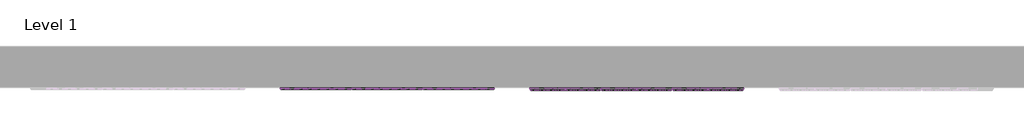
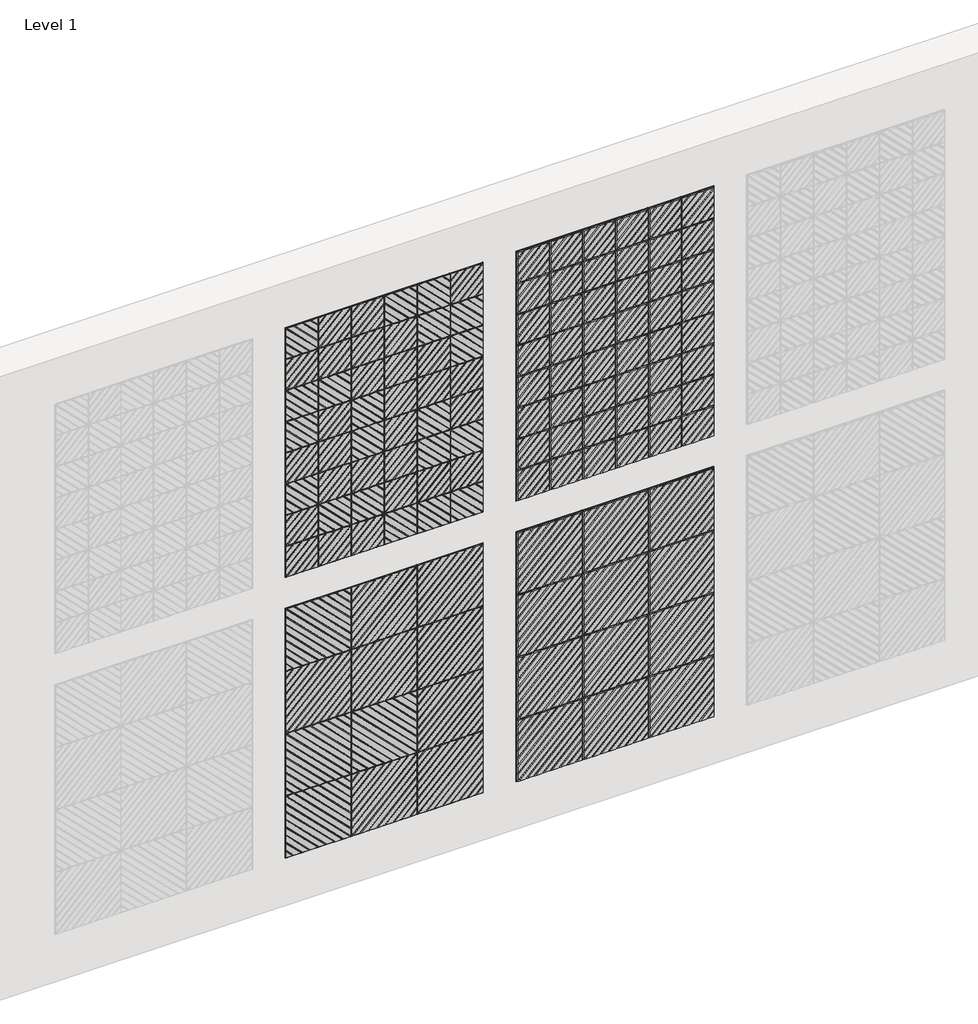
# One storey, part 2 of 3: 120 proxies.
"""IFC4 building model written with IfcOpenShell, lengths in millimetres."""

from ifc_helpers import new_model, si_unit, origin, place, context, project, spatial, transform, mapped, element, save
from components import maz_1_18_b906de22, maz_1_9_b5213464, maz_1_9_928b4c34, maz_2_18_823d9414, maz_2_9_f5754bbc, maz_2_9_c834c103

model = new_model("IFC4")

# Units and contexts
model_context = context("Model", 3, world=origin())
ifc_project = project(units=[si_unit("LENGTHUNIT", "METRE", prefix="MILLI")], contexts=[model_context])

# Site, building, storey
site = spatial("IfcSite", under=ifc_project)
building = spatial("IfcBuilding", under=site)
storey = spatial("IfcBuildingStorey", under=building, Name="Level 1", Elevation=0.0)

# Proxies
placement = place(None, origin())
maz_1_18_shape = maz_1_18_b906de22(model_context)
element("IfcBuildingElementProxy", 1, Name="Turf_Wall Tile_Maze : MAZ-1-18", ObjectType="Turf_Wall Tile_Maze : MAZ-1-18", at=placement, inside=storey, context=model_context, shape_type="MappedRepresentation", body=[
    mapped(maz_1_18_shape, transform((5601.5030998, 1379.3506904, 3367.9326506), x_axis=(1.0, 0.0, 0.0), y_axis=(0.0, 0.0, 1.0), z_axis=(0.0, -1.0, 0.0))),
])
element("IfcBuildingElementProxy", 2, Name="Turf_Wall Tile_Maze : MAZ-1-18", ObjectType="Turf_Wall Tile_Maze : MAZ-1-18", at=placement, inside=storey, context=model_context, shape_type="MappedRepresentation", body=[
    mapped(maz_1_18_shape, transform((5906.3030998, 1379.3506904, 3367.9326506), x_axis=(1.0, 0.0, 0.0), y_axis=(0.0, 0.0, 1.0), z_axis=(0.0, -1.0, 0.0))),
])
element("IfcBuildingElementProxy", 3, Name="Turf_Wall Tile_Maze : MAZ-1-18", ObjectType="Turf_Wall Tile_Maze : MAZ-1-18", at=placement, inside=storey, context=model_context, shape_type="MappedRepresentation", body=[
    mapped(maz_1_18_shape, transform((6820.7030998, 1379.3506904, 3367.9326506), x_axis=(1.0, 0.0, 0.0), y_axis=(0.0, 0.0, 1.0), z_axis=(0.0, -1.0, 0.0))),
])
element("IfcBuildingElementProxy", 4, Name="Turf_Wall Tile_Maze : MAZ-1-18", ObjectType="Turf_Wall Tile_Maze : MAZ-1-18", at=placement, inside=storey, context=model_context, shape_type="MappedRepresentation", body=[
    mapped(maz_1_18_shape, transform((7125.5030998, 1379.3506904, 3367.9326506), x_axis=(1.0, 0.0, 0.0), y_axis=(0.0, 0.0, 1.0), z_axis=(0.0, -1.0, 0.0))),
])
element("IfcBuildingElementProxy", 5, Name="Turf_Wall Tile_Maze : MAZ-1-18", ObjectType="Turf_Wall Tile_Maze : MAZ-1-18", at=placement, inside=storey, context=model_context, shape_type="MappedRepresentation", body=[
    mapped(maz_1_18_shape, transform((6211.1030998, 1379.3506904, 3367.9326506), x_axis=(1.0, 0.0, 0.0), y_axis=(0.0, 0.0, 1.0), z_axis=(0.0, -1.0, 0.0))),
])
element("IfcBuildingElementProxy", 6, Name="Turf_Wall Tile_Maze : MAZ-1-18", ObjectType="Turf_Wall Tile_Maze : MAZ-1-18", at=placement, inside=storey, context=model_context, shape_type="MappedRepresentation", body=[
    mapped(maz_1_18_shape, transform((6515.9030998, 1379.3506904, 3367.9326506), x_axis=(1.0, 0.0, 0.0), y_axis=(0.0, 0.0, 1.0), z_axis=(0.0, -1.0, 0.0))),
])
element("IfcBuildingElementProxy", 7, Name="Turf_Wall Tile_Maze : MAZ-1-18", ObjectType="Turf_Wall Tile_Maze : MAZ-1-18", at=placement, inside=storey, context=model_context, shape_type="MappedRepresentation", body=[
    mapped(maz_1_18_shape, transform((5601.5030998, 1379.3506904, 3672.7326506), x_axis=(1.0, 0.0, 0.0), y_axis=(0.0, 0.0, 1.0), z_axis=(0.0, -1.0, 0.0))),
])
element("IfcBuildingElementProxy", 8, Name="Turf_Wall Tile_Maze : MAZ-1-18", ObjectType="Turf_Wall Tile_Maze : MAZ-1-18", at=placement, inside=storey, context=model_context, shape_type="MappedRepresentation", body=[
    mapped(maz_1_18_shape, transform((5906.3030998, 1379.3506904, 3672.7326506), x_axis=(1.0, 0.0, 0.0), y_axis=(0.0, 0.0, 1.0), z_axis=(0.0, -1.0, 0.0))),
])
element("IfcBuildingElementProxy", 9, Name="Turf_Wall Tile_Maze : MAZ-1-18", ObjectType="Turf_Wall Tile_Maze : MAZ-1-18", at=placement, inside=storey, context=model_context, shape_type="MappedRepresentation", body=[
    mapped(maz_1_18_shape, transform((6820.7030998, 1379.3506904, 3672.7326506), x_axis=(1.0, 0.0, 0.0), y_axis=(0.0, 0.0, 1.0), z_axis=(0.0, -1.0, 0.0))),
])
element("IfcBuildingElementProxy", 10, Name="Turf_Wall Tile_Maze : MAZ-1-18", ObjectType="Turf_Wall Tile_Maze : MAZ-1-18", at=placement, inside=storey, context=model_context, shape_type="MappedRepresentation", body=[
    mapped(maz_1_18_shape, transform((7125.5030998, 1379.3506904, 3672.7326506), x_axis=(1.0, 0.0, 0.0), y_axis=(0.0, 0.0, 1.0), z_axis=(0.0, -1.0, 0.0))),
])
element("IfcBuildingElementProxy", 11, Name="Turf_Wall Tile_Maze : MAZ-1-18", ObjectType="Turf_Wall Tile_Maze : MAZ-1-18", at=placement, inside=storey, context=model_context, shape_type="MappedRepresentation", body=[
    mapped(maz_1_18_shape, transform((6211.1030998, 1379.3506904, 3672.7326506), x_axis=(1.0, 0.0, 0.0), y_axis=(0.0, 0.0, 1.0), z_axis=(0.0, -1.0, 0.0))),
])
element("IfcBuildingElementProxy", 12, Name="Turf_Wall Tile_Maze : MAZ-1-18", ObjectType="Turf_Wall Tile_Maze : MAZ-1-18", at=placement, inside=storey, context=model_context, shape_type="MappedRepresentation", body=[
    mapped(maz_1_18_shape, transform((6515.9030998, 1379.3506904, 3672.7326506), x_axis=(1.0, 0.0, 0.0), y_axis=(0.0, 0.0, 1.0), z_axis=(0.0, -1.0, 0.0))),
])
element("IfcBuildingElementProxy", 13, Name="Turf_Wall Tile_Maze : MAZ-1-18", ObjectType="Turf_Wall Tile_Maze : MAZ-1-18", at=placement, inside=storey, context=model_context, shape_type="MappedRepresentation", body=[
    mapped(maz_1_18_shape, transform((5601.5030998, 1379.3506904, 3977.5326506), x_axis=(1.0, 0.0, 0.0), y_axis=(0.0, 0.0, 1.0), z_axis=(0.0, -1.0, 0.0))),
])
element("IfcBuildingElementProxy", 14, Name="Turf_Wall Tile_Maze : MAZ-1-18", ObjectType="Turf_Wall Tile_Maze : MAZ-1-18", at=placement, inside=storey, context=model_context, shape_type="MappedRepresentation", body=[
    mapped(maz_1_18_shape, transform((5906.3030998, 1379.3506904, 3977.5326506), x_axis=(1.0, 0.0, 0.0), y_axis=(0.0, 0.0, 1.0), z_axis=(0.0, -1.0, 0.0))),
])
element("IfcBuildingElementProxy", 15, Name="Turf_Wall Tile_Maze : MAZ-1-18", ObjectType="Turf_Wall Tile_Maze : MAZ-1-18", at=placement, inside=storey, context=model_context, shape_type="MappedRepresentation", body=[
    mapped(maz_1_18_shape, transform((6820.7030998, 1379.3506904, 3977.5326506), x_axis=(1.0, 0.0, 0.0), y_axis=(0.0, 0.0, 1.0), z_axis=(0.0, -1.0, 0.0))),
])
element("IfcBuildingElementProxy", 16, Name="Turf_Wall Tile_Maze : MAZ-1-18", ObjectType="Turf_Wall Tile_Maze : MAZ-1-18", at=placement, inside=storey, context=model_context, shape_type="MappedRepresentation", body=[
    mapped(maz_1_18_shape, transform((7125.5030998, 1379.3506904, 3977.5326506), x_axis=(1.0, 0.0, 0.0), y_axis=(0.0, 0.0, 1.0), z_axis=(0.0, -1.0, 0.0))),
])
element("IfcBuildingElementProxy", 17, Name="Turf_Wall Tile_Maze : MAZ-1-18", ObjectType="Turf_Wall Tile_Maze : MAZ-1-18", at=placement, inside=storey, context=model_context, shape_type="MappedRepresentation", body=[
    mapped(maz_1_18_shape, transform((6211.1030998, 1379.3506904, 3977.5326506), x_axis=(1.0, 0.0, 0.0), y_axis=(0.0, 0.0, 1.0), z_axis=(0.0, -1.0, 0.0))),
])
element("IfcBuildingElementProxy", 18, Name="Turf_Wall Tile_Maze : MAZ-1-18", ObjectType="Turf_Wall Tile_Maze : MAZ-1-18", at=placement, inside=storey, context=model_context, shape_type="MappedRepresentation", body=[
    mapped(maz_1_18_shape, transform((6515.9030998, 1379.3506904, 3977.5326506), x_axis=(1.0, 0.0, 0.0), y_axis=(0.0, 0.0, 1.0), z_axis=(0.0, -1.0, 0.0))),
])
element("IfcBuildingElementProxy", 19, Name="Turf_Wall Tile_Maze : MAZ-1-18", ObjectType="Turf_Wall Tile_Maze : MAZ-1-18", at=placement, inside=storey, context=model_context, shape_type="MappedRepresentation", body=[
    mapped(maz_1_18_shape, transform((5601.5030998, 1379.3506904, 4282.3326506), x_axis=(1.0, 0.0, 0.0), y_axis=(0.0, 0.0, 1.0), z_axis=(0.0, -1.0, 0.0))),
])
element("IfcBuildingElementProxy", 20, Name="Turf_Wall Tile_Maze : MAZ-1-18", ObjectType="Turf_Wall Tile_Maze : MAZ-1-18", at=placement, inside=storey, context=model_context, shape_type="MappedRepresentation", body=[
    mapped(maz_1_18_shape, transform((5906.3030998, 1379.3506904, 4282.3326506), x_axis=(1.0, 0.0, 0.0), y_axis=(0.0, 0.0, 1.0), z_axis=(0.0, -1.0, 0.0))),
])
element("IfcBuildingElementProxy", 21, Name="Turf_Wall Tile_Maze : MAZ-1-18", ObjectType="Turf_Wall Tile_Maze : MAZ-1-18", at=placement, inside=storey, context=model_context, shape_type="MappedRepresentation", body=[
    mapped(maz_1_18_shape, transform((6820.7030998, 1379.3506904, 4282.3326506), x_axis=(1.0, 0.0, 0.0), y_axis=(0.0, 0.0, 1.0), z_axis=(0.0, -1.0, 0.0))),
])
element("IfcBuildingElementProxy", 22, Name="Turf_Wall Tile_Maze : MAZ-1-18", ObjectType="Turf_Wall Tile_Maze : MAZ-1-18", at=placement, inside=storey, context=model_context, shape_type="MappedRepresentation", body=[
    mapped(maz_1_18_shape, transform((7125.5030998, 1379.3506904, 4282.3326506), x_axis=(1.0, 0.0, 0.0), y_axis=(0.0, 0.0, 1.0), z_axis=(0.0, -1.0, 0.0))),
])
element("IfcBuildingElementProxy", 23, Name="Turf_Wall Tile_Maze : MAZ-1-18", ObjectType="Turf_Wall Tile_Maze : MAZ-1-18", at=placement, inside=storey, context=model_context, shape_type="MappedRepresentation", body=[
    mapped(maz_1_18_shape, transform((6211.1030998, 1379.3506904, 4282.3326506), x_axis=(1.0, 0.0, 0.0), y_axis=(0.0, 0.0, 1.0), z_axis=(0.0, -1.0, 0.0))),
])
element("IfcBuildingElementProxy", 24, Name="Turf_Wall Tile_Maze : MAZ-1-18", ObjectType="Turf_Wall Tile_Maze : MAZ-1-18", at=placement, inside=storey, context=model_context, shape_type="MappedRepresentation", body=[
    mapped(maz_1_18_shape, transform((6515.9030998, 1379.3506904, 4282.3326506), x_axis=(1.0, 0.0, 0.0), y_axis=(0.0, 0.0, 1.0), z_axis=(0.0, -1.0, 0.0))),
])
element("IfcBuildingElementProxy", 25, Name="Turf_Wall Tile_Maze : MAZ-1-18", ObjectType="Turf_Wall Tile_Maze : MAZ-1-18", at=placement, inside=storey, context=model_context, shape_type="MappedRepresentation", body=[
    mapped(maz_1_18_shape, transform((5601.5030998, 1379.3506904, 4587.1326506), x_axis=(1.0, 0.0, 0.0), y_axis=(0.0, 0.0, 1.0), z_axis=(0.0, -1.0, 0.0))),
])
element("IfcBuildingElementProxy", 26, Name="Turf_Wall Tile_Maze : MAZ-1-18", ObjectType="Turf_Wall Tile_Maze : MAZ-1-18", at=placement, inside=storey, context=model_context, shape_type="MappedRepresentation", body=[
    mapped(maz_1_18_shape, transform((5906.3030998, 1379.3506904, 4587.1326506), x_axis=(1.0, 0.0, 0.0), y_axis=(0.0, 0.0, 1.0), z_axis=(0.0, -1.0, 0.0))),
])
element("IfcBuildingElementProxy", 27, Name="Turf_Wall Tile_Maze : MAZ-1-18", ObjectType="Turf_Wall Tile_Maze : MAZ-1-18", at=placement, inside=storey, context=model_context, shape_type="MappedRepresentation", body=[
    mapped(maz_1_18_shape, transform((6820.7030998, 1379.3506904, 4587.1326506), x_axis=(1.0, 0.0, 0.0), y_axis=(0.0, 0.0, 1.0), z_axis=(0.0, -1.0, 0.0))),
])
element("IfcBuildingElementProxy", 28, Name="Turf_Wall Tile_Maze : MAZ-1-18", ObjectType="Turf_Wall Tile_Maze : MAZ-1-18", at=placement, inside=storey, context=model_context, shape_type="MappedRepresentation", body=[
    mapped(maz_1_18_shape, transform((7125.5030998, 1379.3506904, 4587.1326506), x_axis=(1.0, 0.0, 0.0), y_axis=(0.0, 0.0, 1.0), z_axis=(0.0, -1.0, 0.0))),
])
element("IfcBuildingElementProxy", 29, Name="Turf_Wall Tile_Maze : MAZ-1-18", ObjectType="Turf_Wall Tile_Maze : MAZ-1-18", at=placement, inside=storey, context=model_context, shape_type="MappedRepresentation", body=[
    mapped(maz_1_18_shape, transform((6211.1030998, 1379.3506904, 4587.1326506), x_axis=(1.0, 0.0, 0.0), y_axis=(0.0, 0.0, 1.0), z_axis=(0.0, -1.0, 0.0))),
])
element("IfcBuildingElementProxy", 30, Name="Turf_Wall Tile_Maze : MAZ-1-18", ObjectType="Turf_Wall Tile_Maze : MAZ-1-18", at=placement, inside=storey, context=model_context, shape_type="MappedRepresentation", body=[
    mapped(maz_1_18_shape, transform((6515.9030998, 1379.3506904, 4587.1326506), x_axis=(1.0, 0.0, 0.0), y_axis=(0.0, 0.0, 1.0), z_axis=(0.0, -1.0, 0.0))),
])
element("IfcBuildingElementProxy", 31, Name="Turf_Wall Tile_Maze : MAZ-1-18", ObjectType="Turf_Wall Tile_Maze : MAZ-1-18", at=placement, inside=storey, context=model_context, shape_type="MappedRepresentation", body=[
    mapped(maz_1_18_shape, transform((5601.5030998, 1379.3506904, 4891.9326506), x_axis=(1.0, 0.0, 0.0), y_axis=(0.0, 0.0, 1.0), z_axis=(0.0, -1.0, 0.0))),
])
element("IfcBuildingElementProxy", 32, Name="Turf_Wall Tile_Maze : MAZ-1-18", ObjectType="Turf_Wall Tile_Maze : MAZ-1-18", at=placement, inside=storey, context=model_context, shape_type="MappedRepresentation", body=[
    mapped(maz_1_18_shape, transform((5906.3030998, 1379.3506904, 4891.9326506), x_axis=(1.0, 0.0, 0.0), y_axis=(0.0, 0.0, 1.0), z_axis=(0.0, -1.0, 0.0))),
])
element("IfcBuildingElementProxy", 33, Name="Turf_Wall Tile_Maze : MAZ-1-18", ObjectType="Turf_Wall Tile_Maze : MAZ-1-18", at=placement, inside=storey, context=model_context, shape_type="MappedRepresentation", body=[
    mapped(maz_1_18_shape, transform((6820.7030998, 1379.3506904, 4891.9326506), x_axis=(1.0, 0.0, 0.0), y_axis=(0.0, 0.0, 1.0), z_axis=(0.0, -1.0, 0.0))),
])
element("IfcBuildingElementProxy", 34, Name="Turf_Wall Tile_Maze : MAZ-1-18", ObjectType="Turf_Wall Tile_Maze : MAZ-1-18", at=placement, inside=storey, context=model_context, shape_type="MappedRepresentation", body=[
    mapped(maz_1_18_shape, transform((7125.5030998, 1379.3506904, 4891.9326506), x_axis=(1.0, 0.0, 0.0), y_axis=(0.0, 0.0, 1.0), z_axis=(0.0, -1.0, 0.0))),
])
element("IfcBuildingElementProxy", 35, Name="Turf_Wall Tile_Maze : MAZ-1-18", ObjectType="Turf_Wall Tile_Maze : MAZ-1-18", at=placement, inside=storey, context=model_context, shape_type="MappedRepresentation", body=[
    mapped(maz_1_18_shape, transform((6211.1030998, 1379.3506904, 4891.9326506), x_axis=(1.0, 0.0, 0.0), y_axis=(0.0, 0.0, 1.0), z_axis=(0.0, -1.0, 0.0))),
])
element("IfcBuildingElementProxy", 36, Name="Turf_Wall Tile_Maze : MAZ-1-18", ObjectType="Turf_Wall Tile_Maze : MAZ-1-18", at=placement, inside=storey, context=model_context, shape_type="MappedRepresentation", body=[
    mapped(maz_1_18_shape, transform((6515.9030998, 1379.3506904, 4891.9326506), x_axis=(1.0, 0.0, 0.0), y_axis=(0.0, 0.0, 1.0), z_axis=(0.0, -1.0, 0.0))),
])
element("IfcBuildingElementProxy", 37, Name="Turf_Wall Tile_Maze : MAZ-1-18", ObjectType="Turf_Wall Tile_Maze : MAZ-1-18", at=placement, inside=storey, context=model_context, shape_type="MappedRepresentation", body=[
    mapped(maz_1_18_shape, transform((5601.5030998, 1379.3506904, 5196.7326506), x_axis=(1.0, 0.0, 0.0), y_axis=(0.0, 0.0, 1.0), z_axis=(0.0, -1.0, 0.0))),
])
element("IfcBuildingElementProxy", 38, Name="Turf_Wall Tile_Maze : MAZ-1-18", ObjectType="Turf_Wall Tile_Maze : MAZ-1-18", at=placement, inside=storey, context=model_context, shape_type="MappedRepresentation", body=[
    mapped(maz_1_18_shape, transform((5906.3030998, 1379.3506904, 5196.7326506), x_axis=(1.0, 0.0, 0.0), y_axis=(0.0, 0.0, 1.0), z_axis=(0.0, -1.0, 0.0))),
])
element("IfcBuildingElementProxy", 39, Name="Turf_Wall Tile_Maze : MAZ-1-18", ObjectType="Turf_Wall Tile_Maze : MAZ-1-18", at=placement, inside=storey, context=model_context, shape_type="MappedRepresentation", body=[
    mapped(maz_1_18_shape, transform((6820.7030998, 1379.3506904, 5196.7326506), x_axis=(1.0, 0.0, 0.0), y_axis=(0.0, 0.0, 1.0), z_axis=(0.0, -1.0, 0.0))),
])
element("IfcBuildingElementProxy", 40, Name="Turf_Wall Tile_Maze : MAZ-1-18", ObjectType="Turf_Wall Tile_Maze : MAZ-1-18", at=placement, inside=storey, context=model_context, shape_type="MappedRepresentation", body=[
    mapped(maz_1_18_shape, transform((7125.5030998, 1379.3506904, 5196.7326506), x_axis=(1.0, 0.0, 0.0), y_axis=(0.0, 0.0, 1.0), z_axis=(0.0, -1.0, 0.0))),
])
element("IfcBuildingElementProxy", 41, Name="Turf_Wall Tile_Maze : MAZ-1-18", ObjectType="Turf_Wall Tile_Maze : MAZ-1-18", at=placement, inside=storey, context=model_context, shape_type="MappedRepresentation", body=[
    mapped(maz_1_18_shape, transform((6211.1030998, 1379.3506904, 5196.7326506), x_axis=(1.0, 0.0, 0.0), y_axis=(0.0, 0.0, 1.0), z_axis=(0.0, -1.0, 0.0))),
])
element("IfcBuildingElementProxy", 42, Name="Turf_Wall Tile_Maze : MAZ-1-18", ObjectType="Turf_Wall Tile_Maze : MAZ-1-18", at=placement, inside=storey, context=model_context, shape_type="MappedRepresentation", body=[
    mapped(maz_1_18_shape, transform((6515.9030998, 1379.3506904, 5196.7326506), x_axis=(1.0, 0.0, 0.0), y_axis=(0.0, 0.0, 1.0), z_axis=(0.0, -1.0, 0.0))),
])
element("IfcBuildingElementProxy", 43, Name="Turf_Wall Tile_Maze : MAZ-1-18", ObjectType="Turf_Wall Tile_Maze : MAZ-1-18", at=placement, inside=storey, context=model_context, shape_type="MappedRepresentation", body=[
    mapped(maz_1_18_shape, transform((5601.5030998, 1379.3506904, 5501.5326506), x_axis=(1.0, 0.0, 0.0), y_axis=(0.0, 0.0, 1.0), z_axis=(0.0, -1.0, 0.0))),
])
element("IfcBuildingElementProxy", 44, Name="Turf_Wall Tile_Maze : MAZ-1-18", ObjectType="Turf_Wall Tile_Maze : MAZ-1-18", at=placement, inside=storey, context=model_context, shape_type="MappedRepresentation", body=[
    mapped(maz_1_18_shape, transform((5906.3030998, 1379.3506904, 5501.5326506), x_axis=(1.0, 0.0, 0.0), y_axis=(0.0, 0.0, 1.0), z_axis=(0.0, -1.0, 0.0))),
])
element("IfcBuildingElementProxy", 45, Name="Turf_Wall Tile_Maze : MAZ-1-18", ObjectType="Turf_Wall Tile_Maze : MAZ-1-18", at=placement, inside=storey, context=model_context, shape_type="MappedRepresentation", body=[
    mapped(maz_1_18_shape, transform((6820.7030998, 1379.3506904, 5501.5326506), x_axis=(1.0, 0.0, 0.0), y_axis=(0.0, 0.0, 1.0), z_axis=(0.0, -1.0, 0.0))),
])
element("IfcBuildingElementProxy", 46, Name="Turf_Wall Tile_Maze : MAZ-1-18", ObjectType="Turf_Wall Tile_Maze : MAZ-1-18", at=placement, inside=storey, context=model_context, shape_type="MappedRepresentation", body=[
    mapped(maz_1_18_shape, transform((7125.5030998, 1379.3506904, 5501.5326506), x_axis=(1.0, 0.0, 0.0), y_axis=(0.0, 0.0, 1.0), z_axis=(0.0, -1.0, 0.0))),
])
element("IfcBuildingElementProxy", 47, Name="Turf_Wall Tile_Maze : MAZ-1-18", ObjectType="Turf_Wall Tile_Maze : MAZ-1-18", at=placement, inside=storey, context=model_context, shape_type="MappedRepresentation", body=[
    mapped(maz_1_18_shape, transform((6211.1030998, 1379.3506904, 5501.5326506), x_axis=(1.0, 0.0, 0.0), y_axis=(0.0, 0.0, 1.0), z_axis=(0.0, -1.0, 0.0))),
])
element("IfcBuildingElementProxy", 48, Name="Turf_Wall Tile_Maze : MAZ-1-18", ObjectType="Turf_Wall Tile_Maze : MAZ-1-18", at=placement, inside=storey, context=model_context, shape_type="MappedRepresentation", body=[
    mapped(maz_1_18_shape, transform((6515.9030998, 1379.3506904, 5501.5326506), x_axis=(1.0, 0.0, 0.0), y_axis=(0.0, 0.0, 1.0), z_axis=(0.0, -1.0, 0.0))),
])
maz_1_9_shape = maz_1_9_b5213464(model_context)
element("IfcBuildingElementProxy", 49, Name="Turf_Wall Tile_Maze : MAZ-1-9", ObjectType="Turf_Wall Tile_Maze : MAZ-1-9", at=placement, inside=storey, context=model_context, shape_type="MappedRepresentation", body=[
    mapped(maz_1_9_shape, transform((3772.7030998, 1379.3506904, 5501.5326506), x_axis=(1.0, 0.0, 0.0), y_axis=(0.0, 0.0, 1.0), z_axis=(0.0, -1.0, 0.0))),
])
element("IfcBuildingElementProxy", 50, Name="Turf_Wall Tile_Maze : MAZ-1-9", ObjectType="Turf_Wall Tile_Maze : MAZ-1-9", at=placement, inside=storey, context=model_context, shape_type="MappedRepresentation", body=[
    mapped(maz_1_9_shape, transform((4077.5030998, 1379.3506904, 5501.5326506), x_axis=(-1.0, 0.0, 0.0), y_axis=(0.0, 0.0, -1.0), z_axis=(0.0, -1.0, 0.0))),
])
element("IfcBuildingElementProxy", 51, Name="Turf_Wall Tile_Maze : MAZ-1-9", ObjectType="Turf_Wall Tile_Maze : MAZ-1-9", at=placement, inside=storey, context=model_context, shape_type="MappedRepresentation", body=[
    mapped(maz_1_9_shape, transform((4991.9030998, 1379.3506904, 5501.5326506), x_axis=(1.0, 0.0, 0.0), y_axis=(0.0, 0.0, 1.0), z_axis=(0.0, -1.0, 0.0))),
])
element("IfcBuildingElementProxy", 52, Name="Turf_Wall Tile_Maze : MAZ-1-9", ObjectType="Turf_Wall Tile_Maze : MAZ-1-9", at=placement, inside=storey, context=model_context, shape_type="MappedRepresentation", body=[
    mapped(maz_1_9_shape, transform((3467.9030998, 1379.3506904, 5501.5326506), x_axis=(0.0, 0.0, 1.0), y_axis=(-1.0, 0.0, 0.0), z_axis=(0.0, -1.0, 0.0))),
])
element("IfcBuildingElementProxy", 53, Name="Turf_Wall Tile_Maze : MAZ-1-9", ObjectType="Turf_Wall Tile_Maze : MAZ-1-9", at=placement, inside=storey, context=model_context, shape_type="MappedRepresentation", body=[
    mapped(maz_1_9_shape, transform((4382.3030998, 1379.3506904, 5501.5326506), x_axis=(0.0, 0.0, 1.0), y_axis=(-1.0, 0.0, 0.0), z_axis=(0.0, -1.0, 0.0))),
])
element("IfcBuildingElementProxy", 54, Name="Turf_Wall Tile_Maze : MAZ-1-9", ObjectType="Turf_Wall Tile_Maze : MAZ-1-9", at=placement, inside=storey, context=model_context, shape_type="MappedRepresentation", body=[
    mapped(maz_1_9_shape, transform((4687.1030998, 1379.3506904, 5501.5326506), x_axis=(0.0, 0.0, 1.0), y_axis=(-1.0, 0.0, 0.0), z_axis=(0.0, -1.0, 0.0))),
])
element("IfcBuildingElementProxy", 55, Name="Turf_Wall Tile_Maze : MAZ-1-9", ObjectType="Turf_Wall Tile_Maze : MAZ-1-9", at=placement, inside=storey, context=model_context, shape_type="MappedRepresentation", body=[
    mapped(maz_1_9_shape, transform((3772.7030998, 1379.3506904, 4891.9326506), x_axis=(0.0, 0.0, 1.0), y_axis=(-1.0, 0.0, 0.0), z_axis=(0.0, -1.0, 0.0))),
])
element("IfcBuildingElementProxy", 56, Name="Turf_Wall Tile_Maze : MAZ-1-9", ObjectType="Turf_Wall Tile_Maze : MAZ-1-9", at=placement, inside=storey, context=model_context, shape_type="MappedRepresentation", body=[
    mapped(maz_1_9_shape, transform((4077.5030998, 1379.3506904, 4891.9326506), x_axis=(-1.0, 0.0, 0.0), y_axis=(0.0, 0.0, -1.0), z_axis=(0.0, -1.0, 0.0))),
])
element("IfcBuildingElementProxy", 57, Name="Turf_Wall Tile_Maze : MAZ-1-9", ObjectType="Turf_Wall Tile_Maze : MAZ-1-9", at=placement, inside=storey, context=model_context, shape_type="MappedRepresentation", body=[
    mapped(maz_1_9_shape, transform((4991.9030998, 1379.3506904, 4891.9326506), x_axis=(0.0, 0.0, 1.0), y_axis=(-1.0, 0.0, 0.0), z_axis=(0.0, -1.0, 0.0))),
])
element("IfcBuildingElementProxy", 58, Name="Turf_Wall Tile_Maze : MAZ-1-9", ObjectType="Turf_Wall Tile_Maze : MAZ-1-9", at=placement, inside=storey, context=model_context, shape_type="MappedRepresentation", body=[
    mapped(maz_1_9_shape, transform((3467.9030998, 1379.3506904, 4891.9326506), x_axis=(0.0, 0.0, 1.0), y_axis=(-1.0, 0.0, 0.0), z_axis=(0.0, -1.0, 0.0))),
])
element("IfcBuildingElementProxy", 59, Name="Turf_Wall Tile_Maze : MAZ-1-9", ObjectType="Turf_Wall Tile_Maze : MAZ-1-9", at=placement, inside=storey, context=model_context, shape_type="MappedRepresentation", body=[
    mapped(maz_1_9_shape, transform((4382.3030998, 1379.3506904, 4891.9326506), x_axis=(-1.0, 0.0, 0.0), y_axis=(0.0, 0.0, -1.0), z_axis=(0.0, -1.0, 0.0))),
])
element("IfcBuildingElementProxy", 60, Name="Turf_Wall Tile_Maze : MAZ-1-9", ObjectType="Turf_Wall Tile_Maze : MAZ-1-9", at=placement, inside=storey, context=model_context, shape_type="MappedRepresentation", body=[
    mapped(maz_1_9_shape, transform((4687.1030998, 1379.3506904, 4891.9326506), x_axis=(-1.0, 0.0, 0.0), y_axis=(0.0, 0.0, -1.0), z_axis=(0.0, -1.0, 0.0))),
])
element("IfcBuildingElementProxy", 61, Name="Turf_Wall Tile_Maze : MAZ-1-9", ObjectType="Turf_Wall Tile_Maze : MAZ-1-9", at=placement, inside=storey, context=model_context, shape_type="MappedRepresentation", body=[
    mapped(maz_1_9_shape, transform((3772.7030998, 1379.3506904, 4282.3326506), x_axis=(-1.0, 0.0, 0.0), y_axis=(0.0, 0.0, -1.0), z_axis=(0.0, -1.0, 0.0))),
])
element("IfcBuildingElementProxy", 62, Name="Turf_Wall Tile_Maze : MAZ-1-9", ObjectType="Turf_Wall Tile_Maze : MAZ-1-9", at=placement, inside=storey, context=model_context, shape_type="MappedRepresentation", body=[
    mapped(maz_1_9_shape, transform((4077.5030998, 1379.3506904, 4282.3326506), x_axis=(0.0, 0.0, -1.0), y_axis=(1.0, 0.0, 0.0), z_axis=(0.0, -1.0, 0.0))),
])
element("IfcBuildingElementProxy", 63, Name="Turf_Wall Tile_Maze : MAZ-1-9", ObjectType="Turf_Wall Tile_Maze : MAZ-1-9", at=placement, inside=storey, context=model_context, shape_type="MappedRepresentation", body=[
    mapped(maz_1_9_shape, transform((4991.9030998, 1379.3506904, 4282.3326506), x_axis=(1.0, 0.0, 0.0), y_axis=(0.0, 0.0, 1.0), z_axis=(0.0, -1.0, 0.0))),
])
element("IfcBuildingElementProxy", 64, Name="Turf_Wall Tile_Maze : MAZ-1-9", ObjectType="Turf_Wall Tile_Maze : MAZ-1-9", at=placement, inside=storey, context=model_context, shape_type="MappedRepresentation", body=[
    mapped(maz_1_9_shape, transform((3467.9030998, 1379.3506904, 4282.3326506), x_axis=(-1.0, 0.0, 0.0), y_axis=(0.0, 0.0, -1.0), z_axis=(0.0, -1.0, 0.0))),
])
element("IfcBuildingElementProxy", 65, Name="Turf_Wall Tile_Maze : MAZ-1-9", ObjectType="Turf_Wall Tile_Maze : MAZ-1-9", at=placement, inside=storey, context=model_context, shape_type="MappedRepresentation", body=[
    mapped(maz_1_9_shape, transform((4382.3030998, 1379.3506904, 4282.3326506), x_axis=(-1.0, 0.0, 0.0), y_axis=(0.0, 0.0, -1.0), z_axis=(0.0, -1.0, 0.0))),
])
element("IfcBuildingElementProxy", 66, Name="Turf_Wall Tile_Maze : MAZ-1-9", ObjectType="Turf_Wall Tile_Maze : MAZ-1-9", at=placement, inside=storey, context=model_context, shape_type="MappedRepresentation", body=[
    mapped(maz_1_9_shape, transform((4687.1030998, 1379.3506904, 4282.3326506), x_axis=(0.0, 0.0, -1.0), y_axis=(1.0, 0.0, 0.0), z_axis=(0.0, -1.0, 0.0))),
])
maz_1_9_2_shape = maz_1_9_928b4c34(model_context)
element("IfcBuildingElementProxy", 67, Name="Turf_Wall Tile_Maze : MAZ-1-9", ObjectType="Turf_Wall Tile_Maze : MAZ-1-9", at=placement, inside=storey, context=model_context, shape_type="MappedRepresentation", body=[
    mapped(maz_1_9_2_shape, transform((3772.7030998, 1379.3506904, 5196.7326506), x_axis=(0.0, 0.0, 1.0), y_axis=(-1.0, 0.0, 0.0), z_axis=(0.0, -1.0, 0.0))),
])
element("IfcBuildingElementProxy", 68, Name="Turf_Wall Tile_Maze : MAZ-1-9", ObjectType="Turf_Wall Tile_Maze : MAZ-1-9", at=placement, inside=storey, context=model_context, shape_type="MappedRepresentation", body=[
    mapped(maz_1_9_2_shape, transform((4077.5030998, 1379.3506904, 5196.7326506), x_axis=(0.0, 0.0, -1.0), y_axis=(1.0, 0.0, 0.0), z_axis=(0.0, -1.0, 0.0))),
])
element("IfcBuildingElementProxy", 69, Name="Turf_Wall Tile_Maze : MAZ-1-9", ObjectType="Turf_Wall Tile_Maze : MAZ-1-9", at=placement, inside=storey, context=model_context, shape_type="MappedRepresentation", body=[
    mapped(maz_1_9_2_shape, transform((4991.9030998, 1379.3506904, 5196.7326506), x_axis=(1.0, 0.0, 0.0), y_axis=(0.0, 0.0, 1.0), z_axis=(0.0, -1.0, 0.0))),
])
element("IfcBuildingElementProxy", 70, Name="Turf_Wall Tile_Maze : MAZ-1-9", ObjectType="Turf_Wall Tile_Maze : MAZ-1-9", at=placement, inside=storey, context=model_context, shape_type="MappedRepresentation", body=[
    mapped(maz_1_9_2_shape, transform((3467.9030998, 1379.3506904, 5196.7326506), x_axis=(0.0, 0.0, -1.0), y_axis=(1.0, 0.0, 0.0), z_axis=(0.0, -1.0, 0.0))),
])
element("IfcBuildingElementProxy", 71, Name="Turf_Wall Tile_Maze : MAZ-1-9", ObjectType="Turf_Wall Tile_Maze : MAZ-1-9", at=placement, inside=storey, context=model_context, shape_type="MappedRepresentation", body=[
    mapped(maz_1_9_2_shape, transform((4382.3030998, 1379.3506904, 5196.7326506), x_axis=(0.0, 0.0, 1.0), y_axis=(-1.0, 0.0, 0.0), z_axis=(0.0, -1.0, 0.0))),
])
element("IfcBuildingElementProxy", 72, Name="Turf_Wall Tile_Maze : MAZ-1-9", ObjectType="Turf_Wall Tile_Maze : MAZ-1-9", at=placement, inside=storey, context=model_context, shape_type="MappedRepresentation", body=[
    mapped(maz_1_9_2_shape, transform((4687.1030998, 1379.3506904, 5196.7326506), x_axis=(1.0, 0.0, 0.0), y_axis=(0.0, 0.0, 1.0), z_axis=(0.0, -1.0, 0.0))),
])
element("IfcBuildingElementProxy", 73, Name="Turf_Wall Tile_Maze : MAZ-1-9", ObjectType="Turf_Wall Tile_Maze : MAZ-1-9", at=placement, inside=storey, context=model_context, shape_type="MappedRepresentation", body=[
    mapped(maz_1_9_2_shape, transform((3772.7030998, 1379.3506904, 4587.1326506), x_axis=(0.0, 0.0, 1.0), y_axis=(-1.0, 0.0, 0.0), z_axis=(0.0, -1.0, 0.0))),
])
element("IfcBuildingElementProxy", 74, Name="Turf_Wall Tile_Maze : MAZ-1-9", ObjectType="Turf_Wall Tile_Maze : MAZ-1-9", at=placement, inside=storey, context=model_context, shape_type="MappedRepresentation", body=[
    mapped(maz_1_9_2_shape, transform((4077.5030998, 1379.3506904, 4587.1326506), x_axis=(1.0, 0.0, 0.0), y_axis=(0.0, 0.0, 1.0), z_axis=(0.0, -1.0, 0.0))),
])
element("IfcBuildingElementProxy", 75, Name="Turf_Wall Tile_Maze : MAZ-1-9", ObjectType="Turf_Wall Tile_Maze : MAZ-1-9", at=placement, inside=storey, context=model_context, shape_type="MappedRepresentation", body=[
    mapped(maz_1_9_2_shape, transform((4991.9030998, 1379.3506904, 4587.1326506), x_axis=(0.0, 0.0, 1.0), y_axis=(-1.0, 0.0, 0.0), z_axis=(0.0, -1.0, 0.0))),
])
element("IfcBuildingElementProxy", 76, Name="Turf_Wall Tile_Maze : MAZ-1-9", ObjectType="Turf_Wall Tile_Maze : MAZ-1-9", at=placement, inside=storey, context=model_context, shape_type="MappedRepresentation", body=[
    mapped(maz_1_9_2_shape, transform((3467.9030998, 1379.3506904, 4587.1326506), x_axis=(1.0, 0.0, 0.0), y_axis=(0.0, 0.0, 1.0), z_axis=(0.0, -1.0, 0.0))),
])
element("IfcBuildingElementProxy", 77, Name="Turf_Wall Tile_Maze : MAZ-1-9", ObjectType="Turf_Wall Tile_Maze : MAZ-1-9", at=placement, inside=storey, context=model_context, shape_type="MappedRepresentation", body=[
    mapped(maz_1_9_2_shape, transform((4382.3030998, 1379.3506904, 4587.1326506), x_axis=(0.0, 0.0, 1.0), y_axis=(-1.0, 0.0, 0.0), z_axis=(0.0, -1.0, 0.0))),
])
element("IfcBuildingElementProxy", 78, Name="Turf_Wall Tile_Maze : MAZ-1-9", ObjectType="Turf_Wall Tile_Maze : MAZ-1-9", at=placement, inside=storey, context=model_context, shape_type="MappedRepresentation", body=[
    mapped(maz_1_9_2_shape, transform((4687.1030998, 1379.3506904, 4587.1326506), x_axis=(0.0, 0.0, 1.0), y_axis=(-1.0, 0.0, 0.0), z_axis=(0.0, -1.0, 0.0))),
])
element("IfcBuildingElementProxy", 79, Name="Turf_Wall Tile_Maze : MAZ-1-9", ObjectType="Turf_Wall Tile_Maze : MAZ-1-9", at=placement, inside=storey, context=model_context, shape_type="MappedRepresentation", body=[
    mapped(maz_1_9_2_shape, transform((3772.7030998, 1379.3506904, 3977.5326506), x_axis=(0.0, 0.0, 1.0), y_axis=(-1.0, 0.0, 0.0), z_axis=(0.0, -1.0, 0.0))),
])
element("IfcBuildingElementProxy", 80, Name="Turf_Wall Tile_Maze : MAZ-1-9", ObjectType="Turf_Wall Tile_Maze : MAZ-1-9", at=placement, inside=storey, context=model_context, shape_type="MappedRepresentation", body=[
    mapped(maz_1_9_2_shape, transform((4077.5030998, 1379.3506904, 3977.5326506), x_axis=(0.0, 0.0, 1.0), y_axis=(-1.0, 0.0, 0.0), z_axis=(0.0, -1.0, 0.0))),
])
element("IfcBuildingElementProxy", 81, Name="Turf_Wall Tile_Maze : MAZ-1-9", ObjectType="Turf_Wall Tile_Maze : MAZ-1-9", at=placement, inside=storey, context=model_context, shape_type="MappedRepresentation", body=[
    mapped(maz_1_9_2_shape, transform((4991.9030998, 1379.3506904, 3977.5326506), x_axis=(-1.0, 0.0, 0.0), y_axis=(0.0, 0.0, -1.0), z_axis=(0.0, -1.0, 0.0))),
])
element("IfcBuildingElementProxy", 82, Name="Turf_Wall Tile_Maze : MAZ-1-9", ObjectType="Turf_Wall Tile_Maze : MAZ-1-9", at=placement, inside=storey, context=model_context, shape_type="MappedRepresentation", body=[
    mapped(maz_1_9_2_shape, transform((3467.9030998, 1379.3506904, 3977.5326506), x_axis=(1.0, 0.0, 0.0), y_axis=(0.0, 0.0, 1.0), z_axis=(0.0, -1.0, 0.0))),
])
element("IfcBuildingElementProxy", 83, Name="Turf_Wall Tile_Maze : MAZ-1-9", ObjectType="Turf_Wall Tile_Maze : MAZ-1-9", at=placement, inside=storey, context=model_context, shape_type="MappedRepresentation", body=[
    mapped(maz_1_9_2_shape, transform((4382.3030998, 1379.3506904, 3977.5326506), x_axis=(0.0, 0.0, 1.0), y_axis=(-1.0, 0.0, 0.0), z_axis=(0.0, -1.0, 0.0))),
])
element("IfcBuildingElementProxy", 84, Name="Turf_Wall Tile_Maze : MAZ-1-9", ObjectType="Turf_Wall Tile_Maze : MAZ-1-9", at=placement, inside=storey, context=model_context, shape_type="MappedRepresentation", body=[
    mapped(maz_1_9_2_shape, transform((4687.1030998, 1379.3506904, 3977.5326506), x_axis=(-1.0, 0.0, 0.0), y_axis=(0.0, 0.0, -1.0), z_axis=(0.0, -1.0, 0.0))),
])
element("IfcBuildingElementProxy", 85, Name="Turf_Wall Tile_Maze : MAZ-1-9", ObjectType="Turf_Wall Tile_Maze : MAZ-1-9", at=placement, inside=storey, context=model_context, shape_type="MappedRepresentation", body=[
    mapped(maz_1_9_2_shape, transform((3772.7030998, 1379.3506904, 3672.7326506), x_axis=(-1.0, 0.0, 0.0), y_axis=(0.0, 0.0, -1.0), z_axis=(0.0, -1.0, 0.0))),
])
element("IfcBuildingElementProxy", 86, Name="Turf_Wall Tile_Maze : MAZ-1-9", ObjectType="Turf_Wall Tile_Maze : MAZ-1-9", at=placement, inside=storey, context=model_context, shape_type="MappedRepresentation", body=[
    mapped(maz_1_9_2_shape, transform((4077.5030998, 1379.3506904, 3672.7326506), x_axis=(-1.0, 0.0, 0.0), y_axis=(0.0, 0.0, -1.0), z_axis=(0.0, -1.0, 0.0))),
])
element("IfcBuildingElementProxy", 87, Name="Turf_Wall Tile_Maze : MAZ-1-9", ObjectType="Turf_Wall Tile_Maze : MAZ-1-9", at=placement, inside=storey, context=model_context, shape_type="MappedRepresentation", body=[
    mapped(maz_1_9_2_shape, transform((4991.9030998, 1379.3506904, 3672.7326506), x_axis=(0.0, 0.0, -1.0), y_axis=(1.0, 0.0, 0.0), z_axis=(0.0, -1.0, 0.0))),
])
element("IfcBuildingElementProxy", 88, Name="Turf_Wall Tile_Maze : MAZ-1-9", ObjectType="Turf_Wall Tile_Maze : MAZ-1-9", at=placement, inside=storey, context=model_context, shape_type="MappedRepresentation", body=[
    mapped(maz_1_9_2_shape, transform((3467.9030998, 1379.3506904, 3672.7326506), x_axis=(0.0, 0.0, 1.0), y_axis=(-1.0, 0.0, 0.0), z_axis=(0.0, -1.0, 0.0))),
])
element("IfcBuildingElementProxy", 89, Name="Turf_Wall Tile_Maze : MAZ-1-9", ObjectType="Turf_Wall Tile_Maze : MAZ-1-9", at=placement, inside=storey, context=model_context, shape_type="MappedRepresentation", body=[
    mapped(maz_1_9_2_shape, transform((4382.3030998, 1379.3506904, 3672.7326506), x_axis=(0.0, 0.0, -1.0), y_axis=(1.0, 0.0, 0.0), z_axis=(0.0, -1.0, 0.0))),
])
element("IfcBuildingElementProxy", 90, Name="Turf_Wall Tile_Maze : MAZ-1-9", ObjectType="Turf_Wall Tile_Maze : MAZ-1-9", at=placement, inside=storey, context=model_context, shape_type="MappedRepresentation", body=[
    mapped(maz_1_9_2_shape, transform((4687.1030998, 1379.3506904, 3672.7326506), x_axis=(0.0, 0.0, -1.0), y_axis=(1.0, 0.0, 0.0), z_axis=(0.0, -1.0, 0.0))),
])
element("IfcBuildingElementProxy", 91, Name="Turf_Wall Tile_Maze : MAZ-1-9", ObjectType="Turf_Wall Tile_Maze : MAZ-1-9", at=placement, inside=storey, context=model_context, shape_type="MappedRepresentation", body=[
    mapped(maz_1_9_2_shape, transform((3772.7030998, 1379.3506904, 3367.9326506), x_axis=(0.0, 0.0, -1.0), y_axis=(1.0, 0.0, 0.0), z_axis=(0.0, -1.0, 0.0))),
])
element("IfcBuildingElementProxy", 92, Name="Turf_Wall Tile_Maze : MAZ-1-9", ObjectType="Turf_Wall Tile_Maze : MAZ-1-9", at=placement, inside=storey, context=model_context, shape_type="MappedRepresentation", body=[
    mapped(maz_1_9_2_shape, transform((4077.5030998, 1379.3506904, 3367.9326506), x_axis=(0.0, 0.0, -1.0), y_axis=(1.0, 0.0, 0.0), z_axis=(0.0, -1.0, 0.0))),
])
element("IfcBuildingElementProxy", 93, Name="Turf_Wall Tile_Maze : MAZ-1-9", ObjectType="Turf_Wall Tile_Maze : MAZ-1-9", at=placement, inside=storey, context=model_context, shape_type="MappedRepresentation", body=[
    mapped(maz_1_9_2_shape, transform((4991.9030998, 1379.3506904, 3367.9326506), x_axis=(1.0, 0.0, 0.0), y_axis=(0.0, 0.0, 1.0), z_axis=(0.0, -1.0, 0.0))),
])
element("IfcBuildingElementProxy", 94, Name="Turf_Wall Tile_Maze : MAZ-1-9", ObjectType="Turf_Wall Tile_Maze : MAZ-1-9", at=placement, inside=storey, context=model_context, shape_type="MappedRepresentation", body=[
    mapped(maz_1_9_2_shape, transform((3467.9030998, 1379.3506904, 3367.9326506), x_axis=(0.0, 0.0, 1.0), y_axis=(-1.0, 0.0, 0.0), z_axis=(0.0, -1.0, 0.0))),
])
element("IfcBuildingElementProxy", 95, Name="Turf_Wall Tile_Maze : MAZ-1-9", ObjectType="Turf_Wall Tile_Maze : MAZ-1-9", at=placement, inside=storey, context=model_context, shape_type="MappedRepresentation", body=[
    mapped(maz_1_9_2_shape, transform((4382.3030998, 1379.3506904, 3367.9326506), x_axis=(1.0, 0.0, 0.0), y_axis=(0.0, 0.0, 1.0), z_axis=(0.0, -1.0, 0.0))),
])
element("IfcBuildingElementProxy", 96, Name="Turf_Wall Tile_Maze : MAZ-1-9", ObjectType="Turf_Wall Tile_Maze : MAZ-1-9", at=placement, inside=storey, context=model_context, shape_type="MappedRepresentation", body=[
    mapped(maz_1_9_2_shape, transform((4687.1030998, 1379.3506904, 3367.9326506), x_axis=(1.0, 0.0, 0.0), y_axis=(0.0, 0.0, 1.0), z_axis=(0.0, -1.0, 0.0))),
])
maz_2_18_shape = maz_2_18_823d9414(model_context)
element("IfcBuildingElementProxy", 97, Name="Turf_Wall Tile_Maze : MAZ-2-18", ObjectType="Turf_Wall Tile_Maze : MAZ-2-18", at=placement, inside=storey, context=model_context, shape_type="MappedRepresentation", body=[
    mapped(maz_2_18_shape, transform((5753.9058883, 1379.3506904, 777.132711), x_axis=(1.0, 0.0, 0.0), y_axis=(0.0, 0.0, 1.0), z_axis=(0.0, -1.0, 0.0))),
])
element("IfcBuildingElementProxy", 98, Name="Turf_Wall Tile_Maze : MAZ-2-18", ObjectType="Turf_Wall Tile_Maze : MAZ-2-18", at=placement, inside=storey, context=model_context, shape_type="MappedRepresentation", body=[
    mapped(maz_2_18_shape, transform((6363.5058883, 1379.3506904, 777.132711), x_axis=(1.0, 0.0, 0.0), y_axis=(0.0, 0.0, 1.0), z_axis=(0.0, -1.0, 0.0))),
])
element("IfcBuildingElementProxy", 99, Name="Turf_Wall Tile_Maze : MAZ-2-18", ObjectType="Turf_Wall Tile_Maze : MAZ-2-18", at=placement, inside=storey, context=model_context, shape_type="MappedRepresentation", body=[
    mapped(maz_2_18_shape, transform((6973.1058883, 1379.3506904, 777.132711), x_axis=(1.0, 0.0, 0.0), y_axis=(0.0, 0.0, 1.0), z_axis=(0.0, -1.0, 0.0))),
])
element("IfcBuildingElementProxy", 100, Name="Turf_Wall Tile_Maze : MAZ-2-18", ObjectType="Turf_Wall Tile_Maze : MAZ-2-18", at=placement, inside=storey, context=model_context, shape_type="MappedRepresentation", body=[
    mapped(maz_2_18_shape, transform((5753.9058883, 1379.3506904, 1386.732711), x_axis=(1.0, 0.0, 0.0), y_axis=(0.0, 0.0, 1.0), z_axis=(0.0, -1.0, 0.0))),
])
element("IfcBuildingElementProxy", 101, Name="Turf_Wall Tile_Maze : MAZ-2-18", ObjectType="Turf_Wall Tile_Maze : MAZ-2-18", at=placement, inside=storey, context=model_context, shape_type="MappedRepresentation", body=[
    mapped(maz_2_18_shape, transform((6363.5058883, 1379.3506904, 1386.732711), x_axis=(1.0, 0.0, 0.0), y_axis=(0.0, 0.0, 1.0), z_axis=(0.0, -1.0, 0.0))),
])
element("IfcBuildingElementProxy", 102, Name="Turf_Wall Tile_Maze : MAZ-2-18", ObjectType="Turf_Wall Tile_Maze : MAZ-2-18", at=placement, inside=storey, context=model_context, shape_type="MappedRepresentation", body=[
    mapped(maz_2_18_shape, transform((6973.1058883, 1379.3506904, 1386.732711), x_axis=(1.0, 0.0, 0.0), y_axis=(0.0, 0.0, 1.0), z_axis=(0.0, -1.0, 0.0))),
])
element("IfcBuildingElementProxy", 103, Name="Turf_Wall Tile_Maze : MAZ-2-18", ObjectType="Turf_Wall Tile_Maze : MAZ-2-18", at=placement, inside=storey, context=model_context, shape_type="MappedRepresentation", body=[
    mapped(maz_2_18_shape, transform((5753.9058883, 1379.3506904, 1996.332711), x_axis=(1.0, 0.0, 0.0), y_axis=(0.0, 0.0, 1.0), z_axis=(0.0, -1.0, 0.0))),
])
element("IfcBuildingElementProxy", 104, Name="Turf_Wall Tile_Maze : MAZ-2-18", ObjectType="Turf_Wall Tile_Maze : MAZ-2-18", at=placement, inside=storey, context=model_context, shape_type="MappedRepresentation", body=[
    mapped(maz_2_18_shape, transform((6363.5058883, 1379.3506904, 1996.332711), x_axis=(1.0, 0.0, 0.0), y_axis=(0.0, 0.0, 1.0), z_axis=(0.0, -1.0, 0.0))),
])
element("IfcBuildingElementProxy", 105, Name="Turf_Wall Tile_Maze : MAZ-2-18", ObjectType="Turf_Wall Tile_Maze : MAZ-2-18", at=placement, inside=storey, context=model_context, shape_type="MappedRepresentation", body=[
    mapped(maz_2_18_shape, transform((6973.1058883, 1379.3506904, 1996.332711), x_axis=(1.0, 0.0, 0.0), y_axis=(0.0, 0.0, 1.0), z_axis=(0.0, -1.0, 0.0))),
])
element("IfcBuildingElementProxy", 106, Name="Turf_Wall Tile_Maze : MAZ-2-18", ObjectType="Turf_Wall Tile_Maze : MAZ-2-18", at=placement, inside=storey, context=model_context, shape_type="MappedRepresentation", body=[
    mapped(maz_2_18_shape, transform((5753.9058883, 1379.3506904, 2605.932711), x_axis=(1.0, 0.0, 0.0), y_axis=(0.0, 0.0, 1.0), z_axis=(0.0, -1.0, 0.0))),
])
element("IfcBuildingElementProxy", 107, Name="Turf_Wall Tile_Maze : MAZ-2-18", ObjectType="Turf_Wall Tile_Maze : MAZ-2-18", at=placement, inside=storey, context=model_context, shape_type="MappedRepresentation", body=[
    mapped(maz_2_18_shape, transform((6363.5058883, 1379.3506904, 2605.932711), x_axis=(1.0, 0.0, 0.0), y_axis=(0.0, 0.0, 1.0), z_axis=(0.0, -1.0, 0.0))),
])
element("IfcBuildingElementProxy", 108, Name="Turf_Wall Tile_Maze : MAZ-2-18", ObjectType="Turf_Wall Tile_Maze : MAZ-2-18", at=placement, inside=storey, context=model_context, shape_type="MappedRepresentation", body=[
    mapped(maz_2_18_shape, transform((6973.1058883, 1379.3506904, 2605.932711), x_axis=(1.0, 0.0, 0.0), y_axis=(0.0, 0.0, 1.0), z_axis=(0.0, -1.0, 0.0))),
])
maz_2_9_shape = maz_2_9_f5754bbc(model_context)
element("IfcBuildingElementProxy", 109, Name="Turf_Wall Tile_Maze : MAZ-2-9", ObjectType="Turf_Wall Tile_Maze : MAZ-2-9", at=placement, inside=storey, context=model_context, shape_type="MappedRepresentation", body=[
    mapped(maz_2_9_shape, transform((3620.3058883, 1379.3506904, 1996.332711), x_axis=(1.0, 0.0, 0.0), y_axis=(0.0, 0.0, 1.0), z_axis=(0.0, -1.0, 0.0))),
])
element("IfcBuildingElementProxy", 110, Name="Turf_Wall Tile_Maze : MAZ-2-9", ObjectType="Turf_Wall Tile_Maze : MAZ-2-9", at=placement, inside=storey, context=model_context, shape_type="MappedRepresentation", body=[
    mapped(maz_2_9_shape, transform((4229.9058883, 1379.3506904, 1996.332711), x_axis=(-1.0, 0.0, 0.0), y_axis=(0.0, 0.0, -1.0), z_axis=(0.0, -1.0, 0.0))),
])
element("IfcBuildingElementProxy", 111, Name="Turf_Wall Tile_Maze : MAZ-2-9", ObjectType="Turf_Wall Tile_Maze : MAZ-2-9", at=placement, inside=storey, context=model_context, shape_type="MappedRepresentation", body=[
    mapped(maz_2_9_shape, transform((4839.5058883, 1379.3506904, 1996.332711), x_axis=(-1.0, 0.0, 0.0), y_axis=(0.0, 0.0, -1.0), z_axis=(0.0, -1.0, 0.0))),
])
element("IfcBuildingElementProxy", 112, Name="Turf_Wall Tile_Maze : MAZ-2-9", ObjectType="Turf_Wall Tile_Maze : MAZ-2-9", at=placement, inside=storey, context=model_context, shape_type="MappedRepresentation", body=[
    mapped(maz_2_9_shape, transform((3620.3058883, 1379.3506904, 2605.932711), x_axis=(0.0, 0.0, -1.0), y_axis=(1.0, 0.0, 0.0), z_axis=(0.0, -1.0, 0.0))),
])
element("IfcBuildingElementProxy", 113, Name="Turf_Wall Tile_Maze : MAZ-2-9", ObjectType="Turf_Wall Tile_Maze : MAZ-2-9", at=placement, inside=storey, context=model_context, shape_type="MappedRepresentation", body=[
    mapped(maz_2_9_shape, transform((4229.9058883, 1379.3506904, 2605.932711), x_axis=(1.0, 0.0, 0.0), y_axis=(0.0, 0.0, 1.0), z_axis=(0.0, -1.0, 0.0))),
])
element("IfcBuildingElementProxy", 114, Name="Turf_Wall Tile_Maze : MAZ-2-9", ObjectType="Turf_Wall Tile_Maze : MAZ-2-9", at=placement, inside=storey, context=model_context, shape_type="MappedRepresentation", body=[
    mapped(maz_2_9_shape, transform((4839.5058883, 1379.3506904, 2605.932711), x_axis=(-1.0, 0.0, 0.0), y_axis=(0.0, 0.0, -1.0), z_axis=(0.0, -1.0, 0.0))),
])
maz_2_9_2_shape = maz_2_9_c834c103(model_context)
element("IfcBuildingElementProxy", 115, Name="Turf_Wall Tile_Maze : MAZ-2-9", ObjectType="Turf_Wall Tile_Maze : MAZ-2-9", at=placement, inside=storey, context=model_context, shape_type="MappedRepresentation", body=[
    mapped(maz_2_9_2_shape, transform((3620.3058883, 1379.3506904, 1386.732711), x_axis=(1.0, 0.0, 0.0), y_axis=(0.0, 0.0, 1.0), z_axis=(0.0, -1.0, 0.0))),
])
element("IfcBuildingElementProxy", 116, Name="Turf_Wall Tile_Maze : MAZ-2-9", ObjectType="Turf_Wall Tile_Maze : MAZ-2-9", at=placement, inside=storey, context=model_context, shape_type="MappedRepresentation", body=[
    mapped(maz_2_9_2_shape, transform((4229.9058883, 1379.3506904, 1386.732711), x_axis=(1.0, 0.0, 0.0), y_axis=(0.0, 0.0, 1.0), z_axis=(0.0, -1.0, 0.0))),
])
element("IfcBuildingElementProxy", 117, Name="Turf_Wall Tile_Maze : MAZ-2-9", ObjectType="Turf_Wall Tile_Maze : MAZ-2-9", at=placement, inside=storey, context=model_context, shape_type="MappedRepresentation", body=[
    mapped(maz_2_9_2_shape, transform((4839.5058883, 1379.3506904, 1386.732711), x_axis=(0.0, 0.0, 1.0), y_axis=(-1.0, 0.0, 0.0), z_axis=(0.0, -1.0, 0.0))),
])
element("IfcBuildingElementProxy", 118, Name="Turf_Wall Tile_Maze : MAZ-2-9", ObjectType="Turf_Wall Tile_Maze : MAZ-2-9", at=placement, inside=storey, context=model_context, shape_type="MappedRepresentation", body=[
    mapped(maz_2_9_2_shape, transform((3620.3058883, 1379.3506904, 777.132711), x_axis=(-1.0, 0.0, 0.0), y_axis=(0.0, 0.0, -1.0), z_axis=(0.0, -1.0, 0.0))),
])
element("IfcBuildingElementProxy", 119, Name="Turf_Wall Tile_Maze : MAZ-2-9", ObjectType="Turf_Wall Tile_Maze : MAZ-2-9", at=placement, inside=storey, context=model_context, shape_type="MappedRepresentation", body=[
    mapped(maz_2_9_2_shape, transform((4229.9058883, 1379.3506904, 777.132711), x_axis=(0.0, 0.0, 1.0), y_axis=(-1.0, 0.0, 0.0), z_axis=(0.0, -1.0, 0.0))),
])
element("IfcBuildingElementProxy", 120, Name="Turf_Wall Tile_Maze : MAZ-2-9", ObjectType="Turf_Wall Tile_Maze : MAZ-2-9", at=placement, inside=storey, context=model_context, shape_type="MappedRepresentation", body=[
    mapped(maz_2_9_2_shape, transform((4839.5058883, 1379.3506904, 777.132711), x_axis=(0.0, 0.0, -1.0), y_axis=(1.0, 0.0, 0.0), z_axis=(0.0, -1.0, 0.0))),
])

save(model, "model.ifc")
